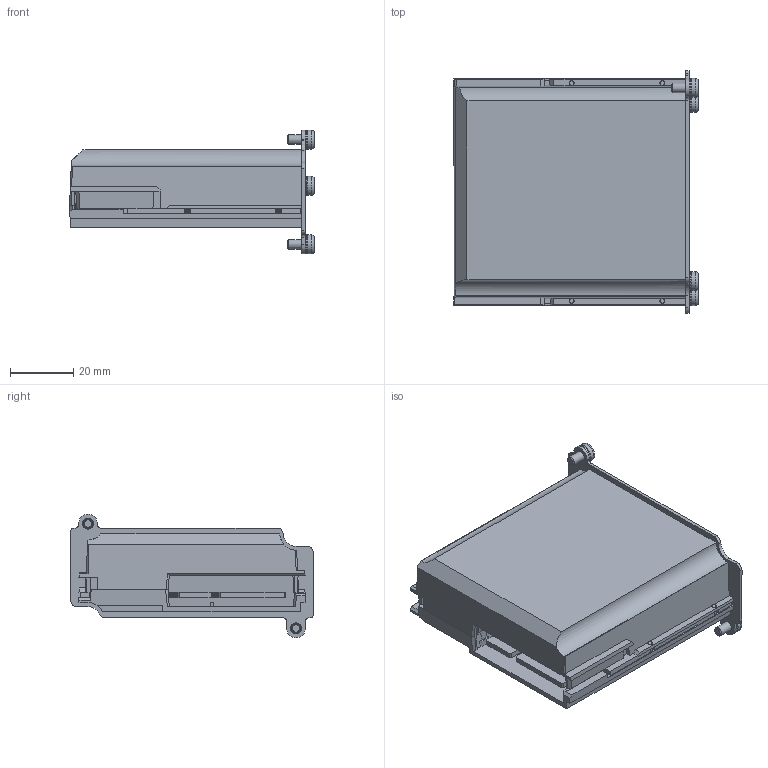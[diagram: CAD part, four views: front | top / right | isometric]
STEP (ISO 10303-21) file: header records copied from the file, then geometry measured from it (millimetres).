
FILE_DESCRIPTION(/* description */ (''),/* implementation_level */ '2;1');
FILE_NAME(/* name */ 'A:\Data\Interfaces\presentations\Int mod con.stp',/* time_stamp */ '2021-01-12T14:10:33+01:00',/* author */ ('Delta'),/* organization */ (''),/* preprocessor_version */ 'ST-DEVELOPER v17.2',/* originating_system */ 'Autodesk Inventor 2019',/* authorisation */ '');
FILE_SCHEMA (('AUTOMOTIVE_DESIGN { 1 0 10303 214 3 1 1 }'));
Length unit declared in the file: millimetre
Products named in the file (1): Interface isolated contacts
Bounding box: 77.7 x 77 x 39.2 mm (x, y, z)
Volume: 112823.3 mm3; surface area: 24287.9 mm2
Topology: 1 solids, 1 shells, 1290 faces, 3544 edges, 2357 vertices
Faces by surface type: plane 922, bspline 259, cylinder 79, cone 22, torus 8
Full cylindrical faces by diameter (mm): 1 x3, 3 x3, 3.2 x2, 3.5 x2, 6 x8
Entity records: 44167 total; most frequent: CARTESIAN_POINT 11541, ORIENTED_EDGE 7080, DIRECTION 5308, EDGE_CURVE 3540, LINE 2708, VECTOR 2708, VERTEX_POINT 2357, EDGE_LOOP 1405
